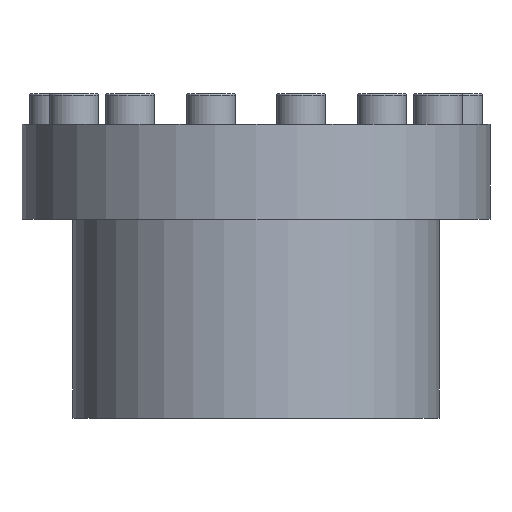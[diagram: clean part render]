
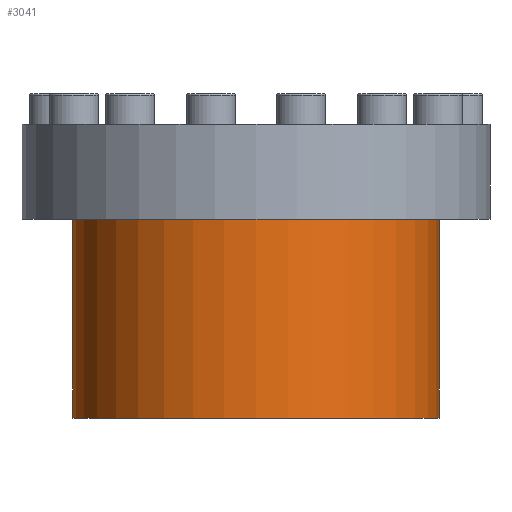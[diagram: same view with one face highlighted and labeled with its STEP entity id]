
A CAD part, front view. The second image highlights one B-rep face of the part: STEP entity #3041.
In plain terms, the highlighted cylindrical face has radius 59.9 mm (diameter 119.8 mm), a partial arc.
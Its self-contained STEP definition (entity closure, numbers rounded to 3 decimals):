
#23 = CARTESIAN_POINT ( 'NONE',  ( 0., 0., -31. ) ) ;
#780 = DIRECTION ( 'NONE',  ( 0., 0., 1. ) ) ;
#794 = CARTESIAN_POINT ( 'NONE',  ( -59.9, 0., 0. ) ) ;
#1001 = VERTEX_POINT ( 'NONE', #1925 ) ;
#1005 = CARTESIAN_POINT ( 'NONE',  ( 59.9, 0., 0. ) ) ;
#1034 = DIRECTION ( 'NONE',  ( 1., 0., 0. ) ) ;
#1079 = EDGE_LOOP ( 'NONE', ( #2682, #5010, #1896, #3168 ) ) ;
#1110 = LINE ( 'NONE', #1005, #4903 ) ;
#1182 = DIRECTION ( 'NONE',  ( 0., 0., 1. ) ) ;
#1196 = EDGE_CURVE ( 'NONE', #1001, #3869, #2600, .T. ) ;
#1327 = CARTESIAN_POINT ( 'NONE',  ( 59.9, 0., -31. ) ) ;
#1363 = VERTEX_POINT ( 'NONE', #2652 ) ;
#1599 = CIRCLE ( 'NONE', #2913, 59.9 ) ;
#1664 = DIRECTION ( 'NONE',  ( 1., 0., 0. ) ) ;
#1869 = DIRECTION ( 'NONE',  ( 0., 0., 1. ) ) ;
#1896 = ORIENTED_EDGE ( 'NONE', *, *, #2091, .T. ) ;
#1925 = CARTESIAN_POINT ( 'NONE',  ( -59.9, 0., -96. ) ) ;
#1996 = DIRECTION ( 'NONE',  ( 1., 0., 0. ) ) ;
#2091 = EDGE_CURVE ( 'NONE', #3869, #3518, #1110, .T. ) ;
#2288 = EDGE_CURVE ( 'NONE', #1363, #3518, #1599, .T. ) ;
#2600 = CIRCLE ( 'NONE', #4264, 59.9 ) ;
#2652 = CARTESIAN_POINT ( 'NONE',  ( -59.9, 0., -31. ) ) ;
#2682 = ORIENTED_EDGE ( 'NONE', *, *, #2855, .F. ) ;
#2712 = AXIS2_PLACEMENT_3D ( 'NONE', #3031, #1869, #1034 ) ;
#2855 = EDGE_CURVE ( 'NONE', #1001, #1363, #4118, .T. ) ;
#2898 = VECTOR ( 'NONE', #1182, 1000. ) ;
#2913 = AXIS2_PLACEMENT_3D ( 'NONE', #23, #780, #1996 ) ;
#3031 = CARTESIAN_POINT ( 'NONE',  ( 0., 0., 0. ) ) ;
#3041 = ADVANCED_FACE ( 'NONE', ( #3145 ), #4952, .T. ) ;
#3145 = FACE_OUTER_BOUND ( 'NONE', #1079, .T. ) ;
#3168 = ORIENTED_EDGE ( 'NONE', *, *, #2288, .F. ) ;
#3285 = CARTESIAN_POINT ( 'NONE',  ( 0., 0., -96. ) ) ;
#3518 = VERTEX_POINT ( 'NONE', #1327 ) ;
#3869 = VERTEX_POINT ( 'NONE', #4319 ) ;
#4118 = LINE ( 'NONE', #794, #2898 ) ;
#4181 = DIRECTION ( 'NONE',  ( 0., 0., 1. ) ) ;
#4264 = AXIS2_PLACEMENT_3D ( 'NONE', #3285, #4819, #1664 ) ;
#4319 = CARTESIAN_POINT ( 'NONE',  ( 59.9, 0., -96. ) ) ;
#4819 = DIRECTION ( 'NONE',  ( 0., 0., 1. ) ) ;
#4903 = VECTOR ( 'NONE', #4181, 1000. ) ;
#4952 = CYLINDRICAL_SURFACE ( 'NONE', #2712, 59.9 ) ;
#5010 = ORIENTED_EDGE ( 'NONE', *, *, #1196, .T. ) ;
